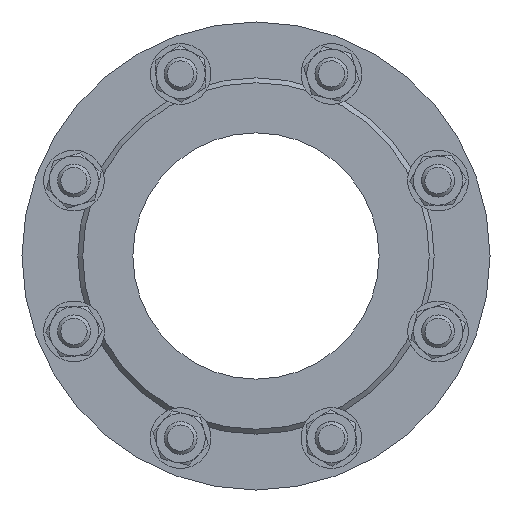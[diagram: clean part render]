
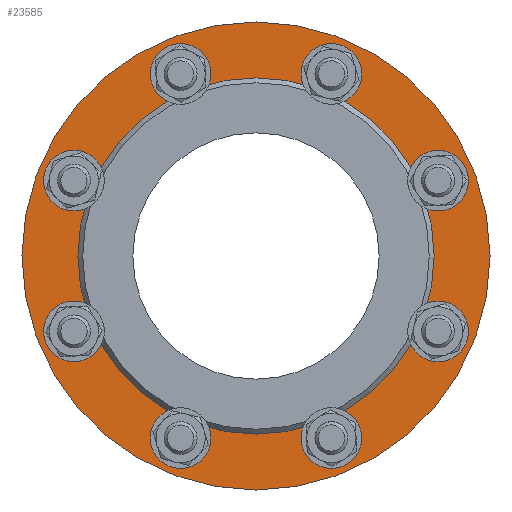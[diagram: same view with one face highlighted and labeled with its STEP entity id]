
A CAD part, left-side view. The second image highlights one B-rep face of the part: STEP entity #23585.
In plain terms, the highlighted planar face has unit normal (-1, 0, 0).
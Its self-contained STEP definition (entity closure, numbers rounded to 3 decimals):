
#312 = FACE_BOUND ( 'NONE', #22672, .T. ) ;
#437 = AXIS2_PLACEMENT_3D ( 'NONE', #1256, #6111, #17735 ) ;
#898 = FACE_BOUND ( 'NONE', #8936, .T. ) ;
#1044 = CIRCLE ( 'NONE', #16496, 10. ) ;
#1185 = DIRECTION ( 'NONE',  ( 0., 0., -1. ) ) ;
#1256 = CARTESIAN_POINT ( 'NONE',  ( -8., 0., 0. ) ) ;
#1532 = EDGE_LOOP ( 'NONE', ( #14678 ) ) ;
#2349 = CIRCLE ( 'NONE', #437, 142.5 ) ;
#2722 = CARTESIAN_POINT ( 'NONE',  ( -8., -142.5, 0. ) ) ;
#2861 = DIRECTION ( 'NONE',  ( -1., 0., 0. ) ) ;
#3178 = FACE_BOUND ( 'NONE', #26670, .T. ) ;
#3411 = CARTESIAN_POINT ( 'NONE',  ( -8., 45.922, -110.866 ) ) ;
#3422 = AXIS2_PLACEMENT_3D ( 'NONE', #8897, #4061, #17951 ) ;
#3665 = ORIENTED_EDGE ( 'NONE', *, *, #21042, .F. ) ;
#4061 = DIRECTION ( 'NONE',  ( -1., 0., 0. ) ) ;
#4468 = ORIENTED_EDGE ( 'NONE', *, *, #20562, .F. ) ;
#4548 = EDGE_CURVE ( 'NONE', #24586, #24586, #28328, .T. ) ;
#4620 = VERTEX_POINT ( 'NONE', #13836 ) ;
#5148 = VERTEX_POINT ( 'NONE', #23429 ) ;
#5597 = FACE_BOUND ( 'NONE', #9373, .T. ) ;
#6080 = EDGE_LOOP ( 'NONE', ( #27784 ) ) ;
#6111 = DIRECTION ( 'NONE',  ( -1., 0., 0. ) ) ;
#6610 = ORIENTED_EDGE ( 'NONE', *, *, #12273, .F. ) ;
#6792 = CARTESIAN_POINT ( 'NONE',  ( -8., 45.922, 110.866 ) ) ;
#6797 = ORIENTED_EDGE ( 'NONE', *, *, #4548, .F. ) ;
#7590 = CIRCLE ( 'NONE', #10009, 10. ) ;
#7609 = EDGE_LOOP ( 'NONE', ( #3665 ) ) ;
#7650 = CIRCLE ( 'NONE', #17791, 10. ) ;
#8639 = CARTESIAN_POINT ( 'NONE',  ( -8., -45.922, -120.866 ) ) ;
#8858 = ORIENTED_EDGE ( 'NONE', *, *, #28209, .F. ) ;
#8897 = CARTESIAN_POINT ( 'NONE',  ( -8., -110.866, 45.922 ) ) ;
#8936 = EDGE_LOOP ( 'NONE', ( #8858 ) ) ;
#9373 = EDGE_LOOP ( 'NONE', ( #6610 ) ) ;
#9671 = VERTEX_POINT ( 'NONE', #2722 ) ;
#9829 = FACE_BOUND ( 'NONE', #1532, .T. ) ;
#9930 = DIRECTION ( 'NONE',  ( -1., 0., 0. ) ) ;
#10009 = AXIS2_PLACEMENT_3D ( 'NONE', #21039, #11822, #28149 ) ;
#11084 = DIRECTION ( 'NONE',  ( 0., 0., -1. ) ) ;
#11649 = VERTEX_POINT ( 'NONE', #27984 ) ;
#11799 = CARTESIAN_POINT ( 'NONE',  ( -8., -110.866, 35.922 ) ) ;
#11822 = DIRECTION ( 'NONE',  ( -1., 0., 0. ) ) ;
#12273 = EDGE_CURVE ( 'NONE', #4620, #4620, #1044, .T. ) ;
#12404 = FACE_BOUND ( 'NONE', #29609, .T. ) ;
#12408 = AXIS2_PLACEMENT_3D ( 'NONE', #13487, #17865, #11084 ) ;
#12467 = CIRCLE ( 'NONE', #29388, 10. ) ;
#13358 = DIRECTION ( 'NONE',  ( 0., 0., -1. ) ) ;
#13487 = CARTESIAN_POINT ( 'NONE',  ( -8., -45.922, -110.866 ) ) ;
#13523 = CARTESIAN_POINT ( 'NONE',  ( -8., 0., 0. ) ) ;
#13608 = CARTESIAN_POINT ( 'NONE',  ( -8., -110.866, -55.922 ) ) ;
#13798 = EDGE_LOOP ( 'NONE', ( #19621 ) ) ;
#13836 = CARTESIAN_POINT ( 'NONE',  ( -8., 110.866, 35.922 ) ) ;
#14678 = ORIENTED_EDGE ( 'NONE', *, *, #22664, .F. ) ;
#15271 = AXIS2_PLACEMENT_3D ( 'NONE', #17580, #22417, #13358 ) ;
#15652 = AXIS2_PLACEMENT_3D ( 'NONE', #13523, #25156, #22739 ) ;
#16317 = DIRECTION ( 'NONE',  ( 0., 0., -1. ) ) ;
#16496 = AXIS2_PLACEMENT_3D ( 'NONE', #23575, #2861, #1185 ) ;
#16628 = CARTESIAN_POINT ( 'NONE',  ( -8., 0., 142.5 ) ) ;
#17039 = EDGE_CURVE ( 'NONE', #24959, #24959, #29237, .T. ) ;
#17072 = FACE_OUTER_BOUND ( 'NONE', #20215, .T. ) ;
#17512 = CARTESIAN_POINT ( 'NONE',  ( -8., -108.5, 0. ) ) ;
#17580 = CARTESIAN_POINT ( 'NONE',  ( -8., -45.922, 110.866 ) ) ;
#17735 = DIRECTION ( 'NONE',  ( 0., -1., 0. ) ) ;
#17791 = AXIS2_PLACEMENT_3D ( 'NONE', #3411, #9930, #21551 ) ;
#17858 = DIRECTION ( 'NONE',  ( 0., 0., -1. ) ) ;
#17865 = DIRECTION ( 'NONE',  ( -1., 0., 0. ) ) ;
#17951 = DIRECTION ( 'NONE',  ( 0., 0., -1. ) ) ;
#18289 = VERTEX_POINT ( 'NONE', #27528 ) ;
#18722 = DIRECTION ( 'NONE',  ( -1., 0., 0. ) ) ;
#18991 = EDGE_CURVE ( 'NONE', #29660, #29660, #25420, .T. ) ;
#19016 = VERTEX_POINT ( 'NONE', #11799 ) ;
#19103 = EDGE_CURVE ( 'NONE', #18289, #18289, #7590, .T. ) ;
#19621 = ORIENTED_EDGE ( 'NONE', *, *, #19103, .F. ) ;
#19675 = CARTESIAN_POINT ( 'NONE',  ( -8., -110.866, -45.922 ) ) ;
#20215 = EDGE_LOOP ( 'NONE', ( #24097 ) ) ;
#20562 = EDGE_CURVE ( 'NONE', #11649, #11649, #12467, .T. ) ;
#21039 = CARTESIAN_POINT ( 'NONE',  ( -8., 110.866, -45.922 ) ) ;
#21042 = EDGE_CURVE ( 'NONE', #5148, #5148, #7650, .T. ) ;
#21512 = EDGE_CURVE ( 'NONE', #9671, #9671, #2349, .T. ) ;
#21551 = DIRECTION ( 'NONE',  ( 0., 0., -1. ) ) ;
#21610 = FACE_BOUND ( 'NONE', #13798, .T. ) ;
#22417 = DIRECTION ( 'NONE',  ( -1., 0., 0. ) ) ;
#22664 = EDGE_CURVE ( 'NONE', #19016, #19016, #23675, .T. ) ;
#22672 = EDGE_LOOP ( 'NONE', ( #27767 ) ) ;
#22739 = DIRECTION ( 'NONE',  ( 0., -1., 0. ) ) ;
#23429 = CARTESIAN_POINT ( 'NONE',  ( -8., 45.922, -120.866 ) ) ;
#23575 = CARTESIAN_POINT ( 'NONE',  ( -8., 110.866, 45.922 ) ) ;
#23581 = PLANE ( 'NONE',  #27598 ) ;
#23585 = ADVANCED_FACE ( 'NONE', ( #5597, #3178, #12404, #25699, #9829, #28135, #21610, #312, #898, #17072 ), #23581, .F. ) ;
#23675 = CIRCLE ( 'NONE', #3422, 10. ) ;
#24030 = DIRECTION ( 'NONE',  ( 0., 1., 0. ) ) ;
#24097 = ORIENTED_EDGE ( 'NONE', *, *, #21512, .T. ) ;
#24586 = VERTEX_POINT ( 'NONE', #29293 ) ;
#24959 = VERTEX_POINT ( 'NONE', #13608 ) ;
#25156 = DIRECTION ( 'NONE',  ( -1., 0., 0. ) ) ;
#25420 = CIRCLE ( 'NONE', #12408, 10. ) ;
#25699 = FACE_BOUND ( 'NONE', #7609, .T. ) ;
#26670 = EDGE_LOOP ( 'NONE', ( #4468 ) ) ;
#27528 = CARTESIAN_POINT ( 'NONE',  ( -8., 110.866, -55.922 ) ) ;
#27598 = AXIS2_PLACEMENT_3D ( 'NONE', #16628, #28582, #24030 ) ;
#27732 = CIRCLE ( 'NONE', #15652, 108.5 ) ;
#27767 = ORIENTED_EDGE ( 'NONE', *, *, #17039, .F. ) ;
#27773 = AXIS2_PLACEMENT_3D ( 'NONE', #19675, #29073, #17858 ) ;
#27784 = ORIENTED_EDGE ( 'NONE', *, *, #18991, .F. ) ;
#27984 = CARTESIAN_POINT ( 'NONE',  ( -8., 45.922, 100.866 ) ) ;
#28135 = FACE_BOUND ( 'NONE', #6080, .T. ) ;
#28149 = DIRECTION ( 'NONE',  ( 0., 0., -1. ) ) ;
#28209 = EDGE_CURVE ( 'NONE', #29027, #29027, #27732, .T. ) ;
#28328 = CIRCLE ( 'NONE', #15271, 10. ) ;
#28582 = DIRECTION ( 'NONE',  ( 1., 0., 0. ) ) ;
#29027 = VERTEX_POINT ( 'NONE', #17512 ) ;
#29073 = DIRECTION ( 'NONE',  ( -1., 0., 0. ) ) ;
#29237 = CIRCLE ( 'NONE', #27773, 10. ) ;
#29293 = CARTESIAN_POINT ( 'NONE',  ( -8., -45.922, 100.866 ) ) ;
#29388 = AXIS2_PLACEMENT_3D ( 'NONE', #6792, #18722, #16317 ) ;
#29609 = EDGE_LOOP ( 'NONE', ( #6797 ) ) ;
#29660 = VERTEX_POINT ( 'NONE', #8639 ) ;
